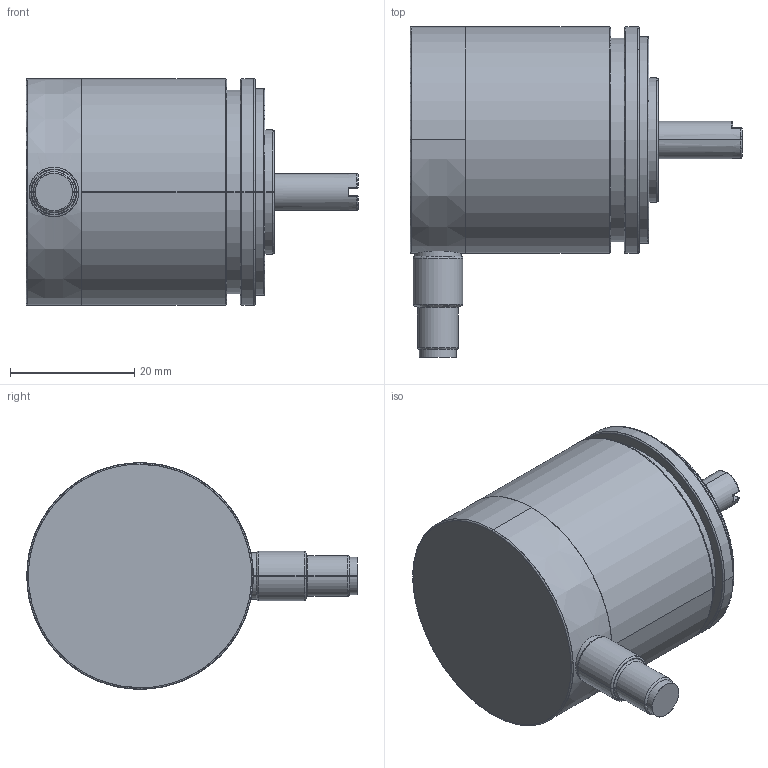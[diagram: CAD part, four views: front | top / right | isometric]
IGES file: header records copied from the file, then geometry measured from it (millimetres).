
Start section: SolidWorks IGES file using analytic representation for surfaces
Global section: file name: O:\08-Produkte_DatBlät&Beiblät&PrLi&Appl&Wettb\8-1 Megatron\8-1-11 Drehgeber\8-1-11-1 Datenblätter\MAB36\3-D-Daten\MAB36_radial.IGS; native system: SolidWorks 2007; preprocessor: SolidWorks 2007; author: AlessandroC; date: 110926.101112; units: millimetre
Bounding box: 53.5 x 53.25 x 36.5 mm (x, y, z)
Surface area: 9025.3 mm2 (no closed solid volume)
Topology: 0 solids, 0 shells, 120 faces, 1891 edges, 1887 vertices
Faces by surface type: bspline 60, revolution 60
